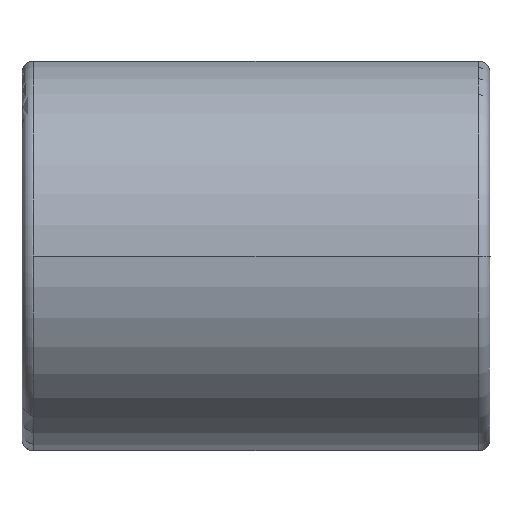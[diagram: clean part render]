
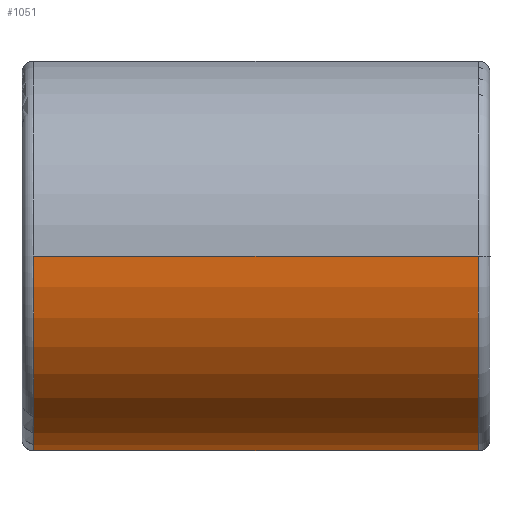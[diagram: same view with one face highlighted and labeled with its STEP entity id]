
A CAD part, front view. The second image highlights one B-rep face of the part: STEP entity #1051.
In plain terms, the highlighted cylindrical face has radius 16.5 mm (diameter 33 mm), a partial arc.
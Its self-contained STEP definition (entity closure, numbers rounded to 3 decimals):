
#29 = AXIS2_PLACEMENT_3D ( 'NONE', #1579, #1577, #1572 ) ;
#101 = CARTESIAN_POINT ( 'NONE',  ( 30.9, -28.75, 0. ) ) ;
#296 = ORIENTED_EDGE ( 'NONE', *, *, #614, .T. ) ;
#341 = AXIS2_PLACEMENT_3D ( 'NONE', #2085, #2036, #2038 ) ;
#572 = FACE_OUTER_BOUND ( 'NONE', #956, .T. ) ;
#614 = EDGE_CURVE ( 'NONE', #2632, #1574, #1059, .T. ) ;
#661 = CARTESIAN_POINT ( 'NONE',  ( -6.4, -14.277, -16.375 ) ) ;
#956 = EDGE_LOOP ( 'NONE', ( #1719, #2520, #296, #3173 ) ) ;
#989 = DIRECTION ( 'NONE',  ( -1., 0., 0. ) ) ;
#1013 = CARTESIAN_POINT ( 'NONE',  ( 31.9, -28.75, 0. ) ) ;
#1040 = VERTEX_POINT ( 'NONE', #2111 ) ;
#1051 = ADVANCED_FACE ( 'NONE', ( #572 ), #1999, .T. ) ;
#1059 = CIRCLE ( 'NONE', #1479, 16.5 ) ;
#1139 = VECTOR ( 'NONE', #1709, 1000. ) ;
#1220 = EDGE_CURVE ( 'NONE', #1040, #2234, #2862, .T. ) ;
#1387 = EDGE_CURVE ( 'NONE', #2234, #2632, #2516, .T. ) ;
#1479 = AXIS2_PLACEMENT_3D ( 'NONE', #3218, #3201, #3198 ) ;
#1572 = DIRECTION ( 'NONE',  ( 0., -1., 0. ) ) ;
#1574 = VERTEX_POINT ( 'NONE', #661 ) ;
#1577 = DIRECTION ( 'NONE',  ( -1., 0., 0. ) ) ;
#1579 = CARTESIAN_POINT ( 'NONE',  ( 30.9, -12.25, 0. ) ) ;
#1709 = DIRECTION ( 'NONE',  ( -1., 0., 0. ) ) ;
#1719 = ORIENTED_EDGE ( 'NONE', *, *, #1220, .T. ) ;
#1822 = CARTESIAN_POINT ( 'NONE',  ( -6.4, -28.75, 0. ) ) ;
#1869 = EDGE_CURVE ( 'NONE', #1040, #1574, #2077, .T. ) ;
#1999 = CYLINDRICAL_SURFACE ( 'NONE', #341, 16.5 ) ;
#2036 = DIRECTION ( 'NONE',  ( -1., 0., 0. ) ) ;
#2038 = DIRECTION ( 'NONE',  ( 0., -1., 0. ) ) ;
#2077 = LINE ( 'NONE', #3217, #1139 ) ;
#2085 = CARTESIAN_POINT ( 'NONE',  ( 31.9, -12.25, 0. ) ) ;
#2111 = CARTESIAN_POINT ( 'NONE',  ( 30.9, -14.277, -16.375 ) ) ;
#2234 = VERTEX_POINT ( 'NONE', #101 ) ;
#2516 = LINE ( 'NONE', #1013, #3333 ) ;
#2520 = ORIENTED_EDGE ( 'NONE', *, *, #1387, .T. ) ;
#2632 = VERTEX_POINT ( 'NONE', #1822 ) ;
#2862 = CIRCLE ( 'NONE', #29, 16.5 ) ;
#3173 = ORIENTED_EDGE ( 'NONE', *, *, #1869, .F. ) ;
#3198 = DIRECTION ( 'NONE',  ( 0., 1., 0. ) ) ;
#3201 = DIRECTION ( 'NONE',  ( 1., 0., 0. ) ) ;
#3217 = CARTESIAN_POINT ( 'NONE',  ( 31.9, -14.277, -16.375 ) ) ;
#3218 = CARTESIAN_POINT ( 'NONE',  ( -6.4, -12.25, 0. ) ) ;
#3333 = VECTOR ( 'NONE', #989, 1000. ) ;
